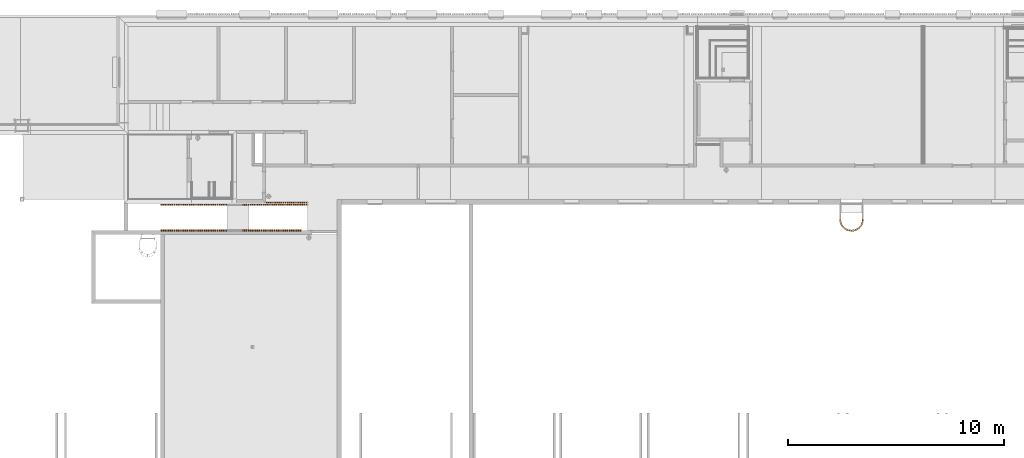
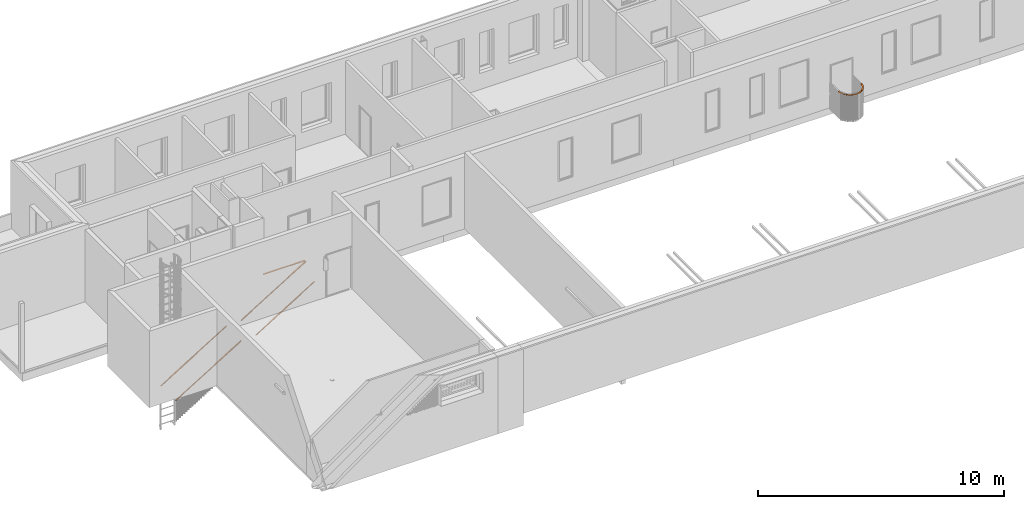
# One storey, part 88 of 100: 6 proxies, 4 elements without a shape of their own.
"""IFC2X3 building model written with IfcOpenShell, lengths in millimetres."""

from ifc_helpers import new_model, entity, si_unit, converted_unit, derived_unit, money_unit, direction, frame, origin_with_axes, place, context, subcontext, project, spatial, faceted_brep, material, type_object, element, aggregate, save


model = new_model("IFC2X3")

# Units and contexts
model_context = context("Model", 3, precision=0.01, world=origin_with_axes(), true_north=direction((0.0, 1.0)))
body_context = subcontext(model_context, "Body", "Model", "MODEL_VIEW")
ifc_project = project(units=[si_unit("LENGTHUNIT", "METRE", prefix="MILLI"), si_unit("AREAUNIT", "SQUARE_METRE"), si_unit("VOLUMEUNIT", "CUBIC_METRE"), converted_unit("PLANEANGLEUNIT", "DEGREE", entity("IfcPlaneAngleMeasure", 0.0174532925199), si_unit("PLANEANGLEUNIT", "RADIAN"), dimensions=[0, 0, 0, 0, 0, 0, 0]), si_unit("SOLIDANGLEUNIT", "STERADIAN"), money_unit("EUR"), converted_unit("TIMEUNIT", "Year", entity("IfcTimeMeasure", 31556926.0), si_unit("TIMEUNIT", "SECOND"), dimensions=[0, 0, 1, 0, 0, 0, 0]), si_unit("MASSUNIT", "GRAM", prefix="KILO"), si_unit("THERMODYNAMICTEMPERATUREUNIT", "DEGREE_CELSIUS"), si_unit("LUMINOUSINTENSITYUNIT", "LUMEN"), si_unit("ENERGYUNIT", "JOULE", prefix="MEGA"), derived_unit("THERMALCONDUCTANCEUNIT", [(si_unit("POWERUNIT", "WATT"), 1), (si_unit("LENGTHUNIT", "METRE"), -1), (si_unit("THERMODYNAMICTEMPERATUREUNIT", "KELVIN"), -1)]), derived_unit("SPECIFICHEATCAPACITYUNIT", [(si_unit("ENERGYUNIT", "JOULE"), 1), (si_unit("MASSUNIT", "GRAM", prefix="KILO"), -1), (si_unit("THERMODYNAMICTEMPERATUREUNIT", "KELVIN"), -1)]), derived_unit("MASSDENSITYUNIT", [(si_unit("MASSUNIT", "GRAM", prefix="KILO"), 1), (si_unit("VOLUMEUNIT", "CUBIC_METRE"), -1)])], contexts=[model_context])

# Site, building, storey
site_placement = place(None, origin_with_axes())
site = spatial("IfcSite", under=ifc_project, at=site_placement, Name="Politse- ja Piirivalveameti ning Päästeameti ühishoone", CompositionType="ELEMENT")
building_placement = place(site_placement, origin_with_axes())
building = spatial("IfcBuilding", under=site, at=building_placement, Name="Politse- ja Piirivalveameti ning Päästeameti ühishoone", CompositionType="ELEMENT")
storey_placement = place(building_placement, frame((0.0, 0.0, 3800.0), z_axis=(0.0, 0.0, 1.0), x_axis=(1.0, 0.0, 0.0)))
storey = spatial("IfcBuildingStorey", under=building, at=storey_placement, Name="Teine korrus", CompositionType="ELEMENT", Elevation=3800.0)

# Railing, proxy
railing_type = type_object("IfcRailingType", Name="Railing Type", PredefinedType="NOTDEFINED")
railing_1_placement = place(storey_placement, frame((26625.7771626, 12810.0198723, -2.69359405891e-05), z_axis=(0.0, 0.0, 1.0), x_axis=(0.0, 1.0, 0.0)))
railing_1 = element("IfcRailing", 1, at=railing_1_placement, inside=storey, type_object=railing_type, Name="PIIRE 2", PredefinedType="NOTDEFINED")
ifc_material = material(Name="Teras - Konstruktsioon")
building_element_proxy_type = type_object("IfcBuildingElementProxyType", Name="IfcBuildingElementProxy", PredefinedType="NOTDEFINED")
proxy_1_placement = place(railing_1_placement, frame((25.0, 2395.75114423, 973.074175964), z_axis=(0.0, 0.0, 1.0), x_axis=(0.0, -1.0, 0.0)))
proxy_1 = element("IfcBuildingElementProxy", 2, at=proxy_1_placement, type_object=building_element_proxy_type, material=ifc_material, Name="Piirde Ülaosa - 001", context=body_context, shape_type="Brep", body=[
    faceted_brep([(970.0, 25.0, 26.9258240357), (970.0, 25.0, 16.9258240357), (-970.0, 25.0, 16.9258240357), (-970.0, 25.0, 26.9258240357), (970.0, -25.0, 26.9258240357), (970.0, -25.0, 16.9258240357), (-970.0, -25.0, 16.9258240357), (-970.0, -25.0, 26.9258240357)], [[[0, 1, 2, 3]], [[0, 4, 5, 1]], [[1, 5, 6, 2]], [[3, 2, 6, 7]], [[4, 0, 3, 7]], [[5, 4, 7, 6]]]),
])
aggregate(railing_1, [proxy_1])

# Railing, proxies
railing_2_placement = place(storey_placement, frame((18400.0260184, 11585.0198611, -3800.0), z_axis=(0.0, 0.0, 1.0), x_axis=(1.0, 0.0, 0.0)))
railing_2 = element("IfcRailing", 3, at=railing_2_placement, inside=storey, type_object=railing_type, Name="TREPIPIIRE 6", PredefinedType="NOTDEFINED")
proxy_2_placement = place(railing_2_placement, frame((1536.9825839, -25.0, 973.074175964), z_axis=(0.0, 0.0, 1.0), x_axis=(1.0, 0.0, 0.0)))
proxy_2 = element("IfcBuildingElementProxy", 4, at=proxy_2_placement, type_object=building_element_proxy_type, material=ifc_material, Name="Piirde Ülaosa - 001", context=body_context, shape_type="Brep", body=[
    faceted_brep([(-1536.9825839, -25.0, 26.9258240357), (-1531.73236229, -25.0, 18.4149384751), (1541.64382841, -25.0, 1914.32882235), (1536.9825839, -25.0, 1923.20303794), (-1536.9825839, 25.0, 26.9258240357), (-1531.73236229, 25.0, 18.4149384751), (1541.64382841, 25.0, 1914.32882235), (1536.9825839, 25.0, 1923.20303794)], [[[0, 1, 2, 3]], [[0, 4, 5, 1]], [[1, 5, 6, 2]], [[3, 2, 6, 7]], [[4, 0, 3, 7]], [[5, 4, 7, 6]]]),
])
proxy_3_placement = place(railing_2_placement, frame((5145.0, -25.0, 2903.91833181), z_axis=(0.0, 0.0, 1.0), x_axis=(1.0, 0.0, 0.0)))
proxy_3 = element("IfcBuildingElementProxy", 5, at=proxy_3_placement, type_object=building_element_proxy_type, material=ifc_material, Name="Piirde Ülaosa - 001", context=body_context, shape_type="Brep", body=[
    faceted_brep([(-1369.74977839, -25.0, 18.4149384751), (-1369.74977839, 25.0, 18.4149384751), (1380.25022161, 25.0, 1714.8435099), (1380.25022161, -25.0, 1714.8435099), (-1375.0, 25.0, 26.9258240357), (-1375.0, -25.0, 26.9258240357), (1375.0, 25.0, 1723.35439546), (1375.0, -25.0, 1723.35439546)], [[[0, 1, 2, 3]], [[4, 1, 0, 5]], [[1, 4, 6, 2]], [[3, 2, 6, 7]], [[5, 0, 3, 7]], [[4, 5, 7, 6]]]),
])
aggregate(railing_2, [proxy_2, proxy_3])

railing_3_placement = place(storey_placement, frame((18400.0260184, 12785.0198611, -3800.0), z_axis=(0.0, 0.0, 1.0), x_axis=(1.0, 0.0, 0.0)))
railing_3 = element("IfcRailing", 6, at=railing_3_placement, inside=storey, type_object=railing_type, Name="TREPIPIIRE 7", PredefinedType="NOTDEFINED")
proxy_4_placement = place(railing_3_placement, frame((1536.9825839, -25.0, 973.074175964), z_axis=(0.0, 0.0, 1.0), x_axis=(1.0, 0.0, 0.0)))
proxy_4 = element("IfcBuildingElementProxy", 7, at=proxy_4_placement, type_object=building_element_proxy_type, material=ifc_material, Name="Piirde Ülaosa - 001", context=body_context, shape_type="Brep", body=[
    faceted_brep([(-1536.9825839, -25.0, 26.9258240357), (-1531.73236229, -25.0, 18.4149384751), (1541.64382841, -25.0, 1914.32882235), (1536.9825839, -25.0, 1923.20303794), (-1536.9825839, 25.0, 26.9258240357), (-1531.73236229, 25.0, 18.4149384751), (1541.64382841, 25.0, 1914.32882235), (1536.9825839, 25.0, 1923.20303794)], [[[0, 1, 2, 3]], [[0, 4, 5, 1]], [[1, 5, 6, 2]], [[3, 2, 6, 7]], [[4, 0, 3, 7]], [[5, 4, 7, 6]]]),
])
proxy_5_placement = place(railing_3_placement, frame((5285.0, -25.0, 2903.91833181), z_axis=(0.0, 0.0, 1.0), x_axis=(1.0, 0.0, 0.0)))
proxy_5 = element("IfcBuildingElementProxy", 8, at=proxy_5_placement, type_object=building_element_proxy_type, material=ifc_material, Name="Piirde Ülaosa - 001", context=body_context, shape_type="Brep", body=[
    faceted_brep([(-1509.74977839, -25.0, 18.4149384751), (-1509.74977839, 25.0, 18.4149384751), (1520.25022161, 25.0, 1887.57078263), (1520.25022161, -25.0, 1887.57078263), (-1515.0, 25.0, 26.9258240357), (-1515.0, -25.0, 26.9258240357), (1515.0, 25.0, 1896.08166819), (1515.0, -25.0, 1896.08166819)], [[[0, 1, 2, 3]], [[4, 1, 0, 5]], [[1, 4, 6, 2]], [[3, 2, 6, 7]], [[5, 0, 3, 7]], [[4, 5, 7, 6]]]),
])
aggregate(railing_3, [proxy_4, proxy_5])

# Railing, proxy
railing_4_placement = place(storey_placement, frame((50863.781002, 13503.4839416, -60.5112732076), z_axis=(0.0, 0.0, 1.0), x_axis=(1.0, 0.0, 0.0)))
railing_4 = element("IfcRailing", 9, at=railing_4_placement, inside=storey, type_object=railing_type, Name="PIIRE 13", PredefinedType="NOTDEFINED")
proxy_6_placement = place(railing_4_placement, frame((-500.492559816, -1161.91857124, 1273.07417596), z_axis=(0.0, 0.0, 1.0), x_axis=(1.0, 0.0, 0.0)))
proxy_6 = element("IfcBuildingElementProxy", 10, at=proxy_6_placement, type_object=building_element_proxy_type, material=ifc_material, Name="Piirde Ülaosa - 001", context=body_context, shape_type="Brep", body=[
    faceted_brep([(500.494499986, -263.406928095, 26.9258240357), (500.494499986, -263.406928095, 16.9258240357), (499.162861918, -297.882095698, 16.9258240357), (499.162861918, -297.882095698, 26.9258240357), (550.490100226, -264.486125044, 26.9258240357), (550.490100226, -264.486125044, 16.9258240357), (549.059869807, -301.513778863, 16.9258240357), (545.068060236, -338.781767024, 16.9258240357), (538.549613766, -375.69175674, 16.9258240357), (529.534746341, -412.07265352, 16.9258240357), (518.06524595, -447.75581546, 16.9258240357), (504.194278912, -482.57583497, 16.9258240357), (487.986143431, -516.371305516, 16.9258240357), (469.515971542, -548.985569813, 16.9258240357), (448.869380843, -580.267445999, 16.9258240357), (426.142077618, -610.071928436, 16.9258240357), (401.439413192, -638.260859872, 16.9258240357), (374.875895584, -664.703571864, 16.9258240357), (346.574658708, -689.277490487, 16.9258240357), (316.666891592, -711.868704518, 16.9258240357), (285.29123026, -732.372493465, 16.9258240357), (252.593115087, -750.693812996, 16.9258240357), (218.724116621, -766.747735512, 16.9258240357), (183.841232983, -780.459843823, 16.9258240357), (148.106162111, -791.766576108, 16.9258240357), (111.684552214, -800.615520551, 16.9258240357), (74.7452339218, -806.965658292, 16.9258240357), (37.4594376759, -810.787553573, 16.9258240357), (0.0, -812.063490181, 16.9258240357), (0.0, -762.034493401, 16.9258240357), (34.0552299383, -760.874510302, 16.9258240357), (67.9525984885, -757.399938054, 16.9258240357), (101.534976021, -751.626882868, 16.9258240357), (134.646693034, -743.582105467, 16.9258240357), (167.134261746, -733.302897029, 16.9258240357), (198.847087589, -720.836906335, 16.9258240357), (229.638167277, -706.241918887, 16.9258240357), (259.364770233, -689.585589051, 16.9258240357), (287.889100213, -670.945126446, 16.9258240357), (315.078934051, -650.406938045, 16.9258240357), (340.808234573, -628.066227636, 16.9258240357), (364.957734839, -604.026554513, 16.9258240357), (387.415490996, -578.399353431, 16.9258240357), (408.077401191, -551.303418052, 16.9258240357), (426.847688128, -522.864350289, 16.9258240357), (443.639343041, -493.213978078, 16.9258240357), (458.374529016, -462.489744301, 16.9258240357), (470.984941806, -430.834069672, 16.9258240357), (481.412126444, -398.393692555, 16.9258240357), (489.607748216, -365.318988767, 16.9258240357), (495.53381671, -331.763274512, 16.9258240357), (495.53381671, -331.763274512, 26.9258240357), (489.607748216, -365.318988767, 26.9258240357), (481.412126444, -398.393692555, 26.9258240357), (470.984941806, -430.834069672, 26.9258240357), (458.374529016, -462.489744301, 26.9258240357), (443.639343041, -493.213978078, 26.9258240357), (426.847688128, -522.864350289, 26.9258240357), (408.077401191, -551.303418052, 26.9258240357), (387.415490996, -578.399353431, 26.9258240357), (364.957734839, -604.026554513, 26.9258240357), (340.808234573, -628.066227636, 26.9258240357), (315.078934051, -650.406938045, 26.9258240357), (287.889100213, -670.945126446, 26.9258240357), (259.364770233, -689.585589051, 26.9258240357), (229.638167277, -706.241918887, 26.9258240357), (198.847087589, -720.836906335, 26.9258240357), (167.134261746, -733.302897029, 26.9258240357), (134.646693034, -743.582105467, 26.9258240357), (101.534976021, -751.626882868, 26.9258240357), (67.9525984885, -757.399938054, 26.9258240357), (34.0552299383, -760.874510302, 26.9258240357), (0.0, -762.034493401, 26.9258240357), (0.0, -812.063490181, 26.9258240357), (37.4594376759, -810.787553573, 26.9258240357), (74.7452339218, -806.965658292, 26.9258240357), (111.684552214, -800.615520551, 26.9258240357), (148.106162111, -791.766576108, 26.9258240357), (183.841232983, -780.459843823, 26.9258240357), (218.724116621, -766.747735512, 26.9258240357), (252.593115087, -750.693812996, 26.9258240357), (285.29123026, -732.372493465, 26.9258240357), (316.666891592, -711.868704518, 26.9258240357), (346.574658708, -689.277490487, 26.9258240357), (374.875895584, -664.703571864, 26.9258240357), (401.439413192, -638.260859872, 26.9258240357), (426.142077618, -610.071928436, 26.9258240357), (448.869380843, -580.267445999, 26.9258240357), (469.515971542, -548.985569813, 26.9258240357), (487.986143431, -516.371305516, 26.9258240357), (504.194278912, -482.57583497, 26.9258240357), (518.06524595, -447.75581546, 26.9258240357), (529.534746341, -412.07265352, 26.9258240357), (538.549613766, -375.69175674, 26.9258240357), (545.068060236, -338.781767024, 26.9258240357), (549.059869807, -301.513778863, 26.9258240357)], [[[0, 1, 2, 3]], [[0, 4, 5, 1]], [[1, 5, 6, 7, 8, 9, 10, 11, 12, 13, 14, 15, 16, 17, 18, 19, 20, 21, 22, 23, 24, 25, 26, 27, 28, 29, 30, 31, 32, 33, 34, 35, 36, 37, 38, 39, 40, 41, 42, 43, 44, 45, 46, 47, 48, 49, 50, 2]], [[3, 2, 50, 51]], [[4, 0, 3, 51, 52, 53, 54, 55, 56, 57, 58, 59, 60, 61, 62, 63, 64, 65, 66, 67, 68, 69, 70, 71, 72, 73, 74, 75, 76, 77, 78, 79, 80, 81, 82, 83, 84, 85, 86, 87, 88, 89, 90, 91, 92, 93, 94, 95]], [[5, 4, 95, 6]], [[6, 95, 94, 7]], [[7, 94, 93, 8]], [[8, 93, 92, 9]], [[9, 92, 91, 10]], [[10, 91, 90, 11]], [[11, 90, 89, 12]], [[12, 89, 88, 13]], [[13, 88, 87, 14]], [[14, 87, 86, 15]], [[15, 86, 85, 16]], [[16, 85, 84, 17]], [[17, 84, 83, 18]], [[18, 83, 82, 19]], [[19, 82, 81, 20]], [[20, 81, 80, 21]], [[21, 80, 79, 22]], [[22, 79, 78, 23]], [[23, 78, 77, 24]], [[24, 77, 76, 25]], [[25, 76, 75, 26]], [[26, 75, 74, 27]], [[27, 74, 73, 28]], [[72, 29, 28, 73]], [[71, 30, 29, 72]], [[70, 31, 30, 71]], [[69, 32, 31, 70]], [[68, 33, 32, 69]], [[67, 34, 33, 68]], [[66, 35, 34, 67]], [[65, 36, 35, 66]], [[64, 37, 36, 65]], [[63, 38, 37, 64]], [[62, 39, 38, 63]], [[61, 40, 39, 62]], [[60, 41, 40, 61]], [[59, 42, 41, 60]], [[58, 43, 42, 59]], [[57, 44, 43, 58]], [[56, 45, 44, 57]], [[55, 46, 45, 56]], [[54, 47, 46, 55]], [[53, 48, 47, 54]], [[52, 49, 48, 53]], [[51, 50, 49, 52]]]),
    faceted_brep([(0.0, -762.034493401, 26.9258240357), (0.0, -762.034493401, 16.9258240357), (-34.0552299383, -760.874510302, 16.9258240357), (-34.0552299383, -760.874510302, 26.9258240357), (0.0, -812.063490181, 26.9258240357), (0.0, -812.063490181, 16.9258240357), (-37.4594376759, -810.787553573, 16.9258240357), (-74.7452339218, -806.965658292, 16.9258240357), (-111.684552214, -800.615520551, 16.9258240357), (-148.106162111, -791.766576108, 16.9258240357), (-183.841232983, -780.459843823, 16.9258240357), (-218.724116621, -766.747735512, 16.9258240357), (-252.593115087, -750.693812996, 16.9258240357), (-285.29123026, -732.372493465, 16.9258240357), (-316.666891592, -711.868704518, 16.9258240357), (-346.574658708, -689.277490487, 16.9258240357), (-374.875895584, -664.703571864, 16.9258240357), (-401.439413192, -638.260859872, 16.9258240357), (-426.142077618, -610.071928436, 16.9258240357), (-448.869380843, -580.267445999, 16.9258240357), (-469.515971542, -548.985569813, 16.9258240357), (-487.986143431, -516.371305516, 16.9258240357), (-504.194278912, -482.57583497, 16.9258240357), (-518.06524595, -447.75581546, 16.9258240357), (-529.534746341, -412.07265352, 16.9258240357), (-538.549613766, -375.69175674, 16.9258240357), (-545.068060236, -338.781767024, 16.9258240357), (-549.059869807, -301.513778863, 16.9258240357), (-550.490100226, -264.486125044, 16.9258240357), (-500.494499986, -263.406928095, 16.9258240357), (-499.162861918, -297.882095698, 16.9258240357), (-495.53381671, -331.763274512, 16.9258240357), (-489.607748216, -365.318988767, 16.9258240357), (-481.412126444, -398.393692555, 16.9258240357), (-470.984941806, -430.834069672, 16.9258240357), (-458.374529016, -462.489744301, 16.9258240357), (-443.639343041, -493.213978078, 16.9258240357), (-426.847688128, -522.864350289, 16.9258240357), (-408.077401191, -551.303418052, 16.9258240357), (-387.415490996, -578.399353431, 16.9258240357), (-364.957734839, -604.026554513, 16.9258240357), (-340.808234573, -628.066227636, 16.9258240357), (-315.078934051, -650.406938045, 16.9258240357), (-287.889100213, -670.945126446, 16.9258240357), (-259.364770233, -689.585589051, 16.9258240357), (-229.638167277, -706.241918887, 16.9258240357), (-198.847087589, -720.836906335, 16.9258240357), (-167.134261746, -733.302897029, 16.9258240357), (-134.646693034, -743.582105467, 16.9258240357), (-101.534976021, -751.626882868, 16.9258240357), (-67.9525984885, -757.399938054, 16.9258240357), (-67.9525984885, -757.399938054, 26.9258240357), (-101.534976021, -751.626882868, 26.9258240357), (-134.646693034, -743.582105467, 26.9258240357), (-167.134261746, -733.302897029, 26.9258240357), (-198.847087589, -720.836906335, 26.9258240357), (-229.638167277, -706.241918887, 26.9258240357), (-259.364770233, -689.585589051, 26.9258240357), (-287.889100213, -670.945126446, 26.9258240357), (-315.078934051, -650.406938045, 26.9258240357), (-340.808234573, -628.066227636, 26.9258240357), (-364.957734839, -604.026554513, 26.9258240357), (-387.415490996, -578.399353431, 26.9258240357), (-408.077401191, -551.303418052, 26.9258240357), (-426.847688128, -522.864350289, 26.9258240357), (-443.639343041, -493.213978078, 26.9258240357), (-458.374529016, -462.489744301, 26.9258240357), (-470.984941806, -430.834069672, 26.9258240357), (-481.412126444, -398.393692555, 26.9258240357), (-489.607748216, -365.318988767, 26.9258240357), (-495.53381671, -331.763274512, 26.9258240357), (-499.162861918, -297.882095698, 26.9258240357), (-500.494499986, -263.406928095, 26.9258240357), (-550.490100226, -264.486125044, 26.9258240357), (-549.059869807, -301.513778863, 26.9258240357), (-545.068060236, -338.781767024, 26.9258240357), (-538.549613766, -375.69175674, 26.9258240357), (-529.534746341, -412.07265352, 26.9258240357), (-518.06524595, -447.75581546, 26.9258240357), (-504.194278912, -482.57583497, 26.9258240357), (-487.986143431, -516.371305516, 26.9258240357), (-469.515971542, -548.985569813, 26.9258240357), (-448.869380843, -580.267445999, 26.9258240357), (-426.142077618, -610.071928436, 26.9258240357), (-401.439413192, -638.260859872, 26.9258240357), (-374.875895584, -664.703571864, 26.9258240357), (-346.574658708, -689.277490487, 26.9258240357), (-316.666891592, -711.868704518, 26.9258240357), (-285.29123026, -732.372493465, 26.9258240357), (-252.593115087, -750.693812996, 26.9258240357), (-218.724116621, -766.747735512, 26.9258240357), (-183.841232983, -780.459843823, 26.9258240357), (-148.106162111, -791.766576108, 26.9258240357), (-111.684552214, -800.615520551, 26.9258240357), (-74.7452339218, -806.965658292, 26.9258240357), (-37.4594376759, -810.787553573, 26.9258240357)], [[[0, 1, 2, 3]], [[0, 4, 5, 1]], [[1, 5, 6, 7, 8, 9, 10, 11, 12, 13, 14, 15, 16, 17, 18, 19, 20, 21, 22, 23, 24, 25, 26, 27, 28, 29, 30, 31, 32, 33, 34, 35, 36, 37, 38, 39, 40, 41, 42, 43, 44, 45, 46, 47, 48, 49, 50, 2]], [[3, 2, 50, 51]], [[4, 0, 3, 51, 52, 53, 54, 55, 56, 57, 58, 59, 60, 61, 62, 63, 64, 65, 66, 67, 68, 69, 70, 71, 72, 73, 74, 75, 76, 77, 78, 79, 80, 81, 82, 83, 84, 85, 86, 87, 88, 89, 90, 91, 92, 93, 94, 95]], [[5, 4, 95, 6]], [[6, 95, 94, 7]], [[7, 94, 93, 8]], [[8, 93, 92, 9]], [[9, 92, 91, 10]], [[10, 91, 90, 11]], [[11, 90, 89, 12]], [[12, 89, 88, 13]], [[13, 88, 87, 14]], [[14, 87, 86, 15]], [[15, 86, 85, 16]], [[16, 85, 84, 17]], [[17, 84, 83, 18]], [[18, 83, 82, 19]], [[19, 82, 81, 20]], [[20, 81, 80, 21]], [[21, 80, 79, 22]], [[22, 79, 78, 23]], [[23, 78, 77, 24]], [[24, 77, 76, 25]], [[25, 76, 75, 26]], [[26, 75, 74, 27]], [[27, 74, 73, 28]], [[72, 29, 28, 73]], [[71, 30, 29, 72]], [[70, 31, 30, 71]], [[69, 32, 31, 70]], [[68, 33, 32, 69]], [[67, 34, 33, 68]], [[66, 35, 34, 67]], [[65, 36, 35, 66]], [[64, 37, 36, 65]], [[63, 38, 37, 64]], [[62, 39, 38, 63]], [[61, 40, 39, 62]], [[60, 41, 40, 61]], [[59, 42, 41, 60]], [[58, 43, 42, 59]], [[57, 44, 43, 58]], [[56, 45, 44, 57]], [[55, 46, 45, 56]], [[54, 47, 46, 55]], [[53, 48, 47, 54]], [[52, 49, 48, 53]], [[51, 50, 49, 52]]]),
])
aggregate(railing_4, [proxy_6])

save(model, "model.ifc")
